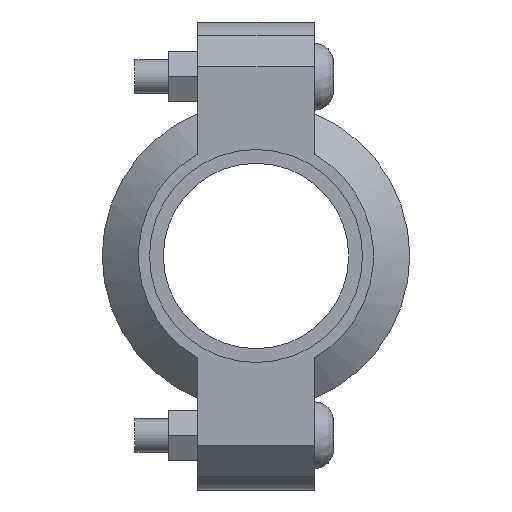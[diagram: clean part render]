
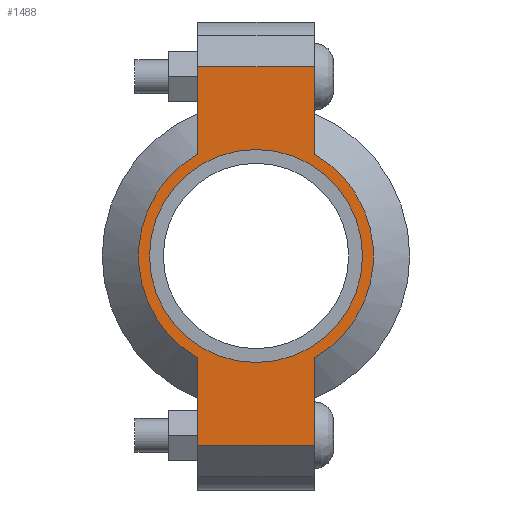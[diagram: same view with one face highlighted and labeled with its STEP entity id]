
A CAD part, left-side view. The second image highlights one B-rep face of the part: STEP entity #1488.
In plain terms, the highlighted planar face has unit normal (-1, 0, 0) as drawn and (0, 0, 1) by its records, which use the part's own axes.
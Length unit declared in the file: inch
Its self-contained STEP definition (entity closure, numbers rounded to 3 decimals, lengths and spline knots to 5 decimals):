
#168=LINE('',#2563,#259);
#176=LINE('',#2599,#267);
#183=LINE('',#2620,#274);
#192=LINE('',#2652,#283);
#193=LINE('',#2656,#284);
#194=LINE('',#2658,#285);
#259=VECTOR('',#2069,0.3937);
#267=VECTOR('',#2085,0.3937);
#274=VECTOR('',#2104,0.3937);
#283=VECTOR('',#2129,0.3937);
#284=VECTOR('',#2134,0.3937);
#285=VECTOR('',#2135,0.3937);
#337=FACE_BOUND('',#497,.T.);
#401=FACE_OUTER_BOUND('',#496,.T.);
#496=EDGE_LOOP('',(#1223,#1224,#1225,#1226,#1227,#1228,#1229,#1230));
#497=EDGE_LOOP('',(#1231));
#594=CIRCLE('',#1731,1.31);
#595=CIRCLE('',#1732,1.31);
#596=CIRCLE('',#1733,1.1875);
#699=VERTEX_POINT('',#2560);
#700=VERTEX_POINT('',#2562);
#711=VERTEX_POINT('',#2594);
#712=VERTEX_POINT('',#2598);
#719=VERTEX_POINT('',#2617);
#720=VERTEX_POINT('',#2619);
#730=VERTEX_POINT('',#2655);
#731=VERTEX_POINT('',#2657);
#732=VERTEX_POINT('',#2660);
#863=EDGE_CURVE('',#700,#699,#168,.T.);
#877=EDGE_CURVE('',#712,#711,#176,.T.);
#887=EDGE_CURVE('',#720,#719,#183,.T.);
#902=EDGE_CURVE('',#712,#699,#192,.T.);
#903=EDGE_CURVE('',#711,#720,#594,.T.);
#904=EDGE_CURVE('',#730,#719,#193,.T.);
#905=EDGE_CURVE('',#730,#731,#194,.T.);
#906=EDGE_CURVE('',#731,#700,#595,.T.);
#907=EDGE_CURVE('',#732,#732,#596,.T.);
#1223=ORIENTED_EDGE('',*,*,#902,.F.);
#1224=ORIENTED_EDGE('',*,*,#877,.T.);
#1225=ORIENTED_EDGE('',*,*,#903,.T.);
#1226=ORIENTED_EDGE('',*,*,#887,.T.);
#1227=ORIENTED_EDGE('',*,*,#904,.F.);
#1228=ORIENTED_EDGE('',*,*,#905,.T.);
#1229=ORIENTED_EDGE('',*,*,#906,.T.);
#1230=ORIENTED_EDGE('',*,*,#863,.T.);
#1231=ORIENTED_EDGE('',*,*,#907,.T.);
#1342=PLANE('',#1730);
#1488=ADVANCED_FACE('',(#401,#337),#1342,.T.);
#1730=AXIS2_PLACEMENT_3D('',#2653,#2130,#2131);
#1731=AXIS2_PLACEMENT_3D('',#2654,#2132,#2133);
#1732=AXIS2_PLACEMENT_3D('',#2659,#2136,#2137);
#1733=AXIS2_PLACEMENT_3D('',#2661,#2138,#2139);
#2069=DIRECTION('',(-1.,0.,0.));
#2085=DIRECTION('',(1.,0.,0.));
#2104=DIRECTION('',(1.,0.,0.));
#2129=DIRECTION('',(0.,1.,0.));
#2130=DIRECTION('center_axis',(0.,0.,1.));
#2131=DIRECTION('ref_axis',(1.,0.,0.));
#2132=DIRECTION('center_axis',(0.,0.,1.));
#2133=DIRECTION('ref_axis',(-1.,0.,0.));
#2134=DIRECTION('',(0.,-1.,0.));
#2135=DIRECTION('',(-1.,0.,0.));
#2136=DIRECTION('center_axis',(0.,0.,1.));
#2137=DIRECTION('ref_axis',(-1.,0.,0.));
#2138=DIRECTION('center_axis',(0.,0.,-1.));
#2139=DIRECTION('ref_axis',(-1.,0.,0.));
#2560=CARTESIAN_POINT('',(-2.11,0.65,0.94));
#2562=CARTESIAN_POINT('',(-1.13737,0.65,0.94));
#2563=CARTESIAN_POINT('',(-2.61,0.65,0.94));
#2594=CARTESIAN_POINT('',(-1.13737,-0.65,0.94));
#2598=CARTESIAN_POINT('',(-2.11,-0.65,0.94));
#2599=CARTESIAN_POINT('',(2.61,-0.65,0.94));
#2617=CARTESIAN_POINT('',(2.11,-0.65,0.94));
#2619=CARTESIAN_POINT('',(1.13737,-0.65,0.94));
#2620=CARTESIAN_POINT('',(2.61,-0.65,0.94));
#2652=CARTESIAN_POINT('',(-2.11,0.325,0.94));
#2653=CARTESIAN_POINT('Origin',(0.,0.,0.94));
#2654=CARTESIAN_POINT('Origin',(0.,0.,0.94));
#2655=CARTESIAN_POINT('',(2.11,0.65,0.94));
#2656=CARTESIAN_POINT('',(2.11,-0.325,0.94));
#2657=CARTESIAN_POINT('',(1.13737,0.65,0.94));
#2658=CARTESIAN_POINT('',(-2.61,0.65,0.94));
#2659=CARTESIAN_POINT('Origin',(0.,0.,0.94));
#2660=CARTESIAN_POINT('',(1.1875,0.,0.94));
#2661=CARTESIAN_POINT('Origin',(0.,0.,0.94));
